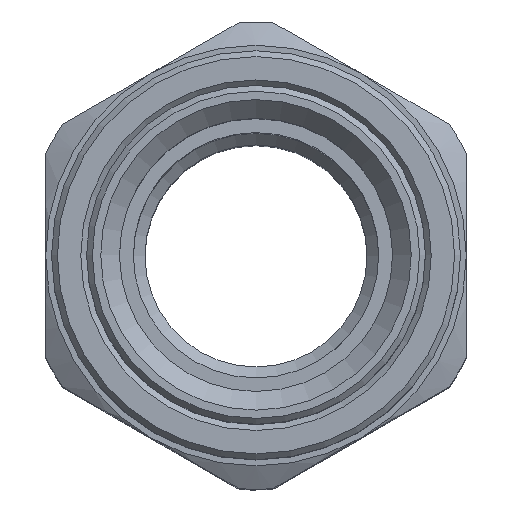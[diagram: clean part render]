
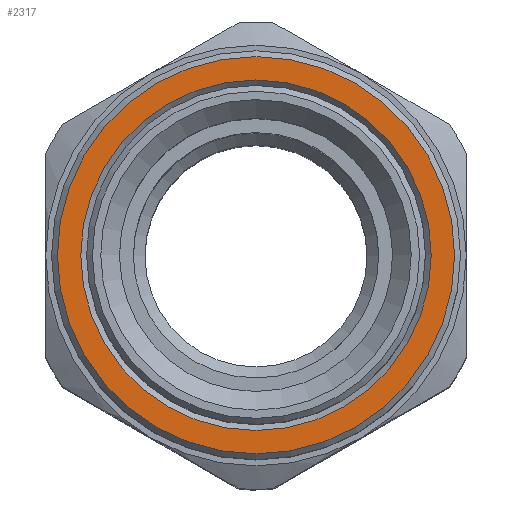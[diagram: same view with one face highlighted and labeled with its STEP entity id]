
A CAD part, top view. The second image highlights one B-rep face of the part: STEP entity #2317.
In plain terms, the highlighted planar face has unit normal (0, 0, 1).
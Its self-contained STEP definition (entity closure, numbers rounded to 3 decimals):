
#2286=CARTESIAN_POINT('',(15.,0.,74.5));
#2287=VERTEX_POINT('',#2286);
#2288=CARTESIAN_POINT('',(0.,0.,74.5));
#2289=DIRECTION('',(0.0,0.0,1.0));
#2290=DIRECTION('',(-1.0,0.0,0.0));
#2291=AXIS2_PLACEMENT_3D('',#2288,#2289,#2290);
#2292=CIRCLE('',#2291,15.);
#2293=EDGE_CURVE('',#2287,#2287,#2292,.T.);
#2298=CARTESIAN_POINT('',(0.,0.,74.5));
#2299=DIRECTION('',(0.0,0.0,1.0));
#2300=DIRECTION('',(1.0,0.0,0.0));
#2301=AXIS2_PLACEMENT_3D('',#2298,#2299,#2300);
#2302=PLANE('',#2301);
#2303=CARTESIAN_POINT('',(17.,0.,74.5));
#2304=VERTEX_POINT('',#2303);
#2305=CARTESIAN_POINT('',(0.,0.,74.5));
#2306=DIRECTION('',(0.0,0.0,-1.0));
#2307=DIRECTION('',(-1.0,0.0,0.0));
#2308=AXIS2_PLACEMENT_3D('',#2305,#2306,#2307);
#2309=CIRCLE('',#2308,17.0);
#2310=EDGE_CURVE('',#2304,#2304,#2309,.T.);
#2311=ORIENTED_EDGE('',*,*,#2310,.F.);
#2312=EDGE_LOOP('',(#2311));
#2313=FACE_OUTER_BOUND('',#2312,.T.);
#2314=ORIENTED_EDGE('',*,*,#2293,.F.);
#2315=EDGE_LOOP('',(#2314));
#2316=FACE_BOUND('',#2315,.T.);
#2317=ADVANCED_FACE('',(#2313,#2316),#2302,.T.);
